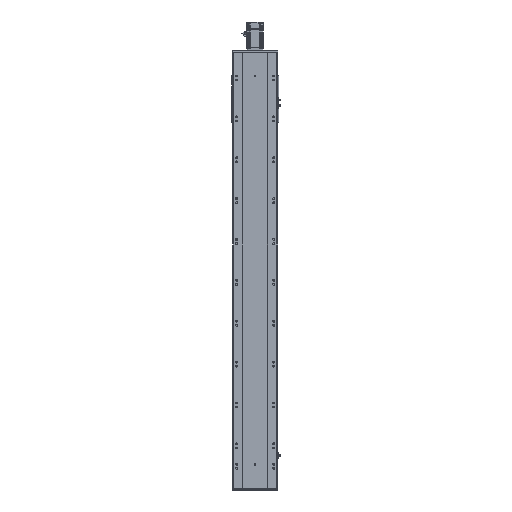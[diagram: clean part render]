
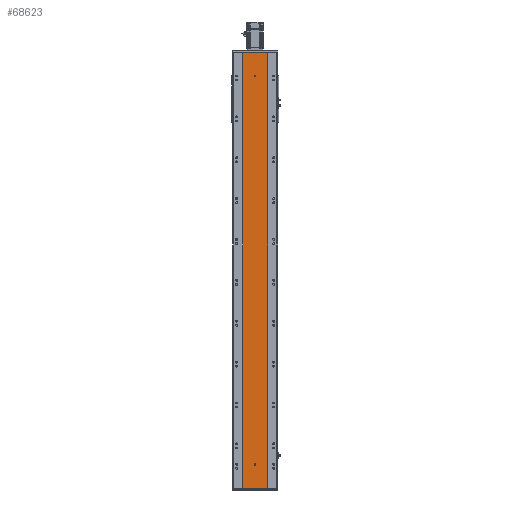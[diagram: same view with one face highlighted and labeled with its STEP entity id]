
A CAD part, front view. The second image highlights one B-rep face of the part: STEP entity #68623.
In plain terms, the highlighted planar face has unit normal (0, -1, 0).
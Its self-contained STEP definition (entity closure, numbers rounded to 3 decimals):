
#151 = CARTESIAN_POINT ( 'NONE',  ( 60., 0., 0. ) ) ;
#196 = DIRECTION ( 'NONE',  ( 0., 0., -1. ) ) ;
#1177 = ORIENTED_EDGE ( 'NONE', *, *, #66688, .T. ) ;
#2038 = ORIENTED_EDGE ( 'NONE', *, *, #28944, .F. ) ;
#3447 = CIRCLE ( 'NONE', #6340, 4. ) ;
#5328 = CARTESIAN_POINT ( 'NONE',  ( 4., 0., 119.5 ) ) ;
#5422 = CARTESIAN_POINT ( 'NONE',  ( -60., 0., 0. ) ) ;
#6007 = VERTEX_POINT ( 'NONE', #20006 ) ;
#6340 = AXIS2_PLACEMENT_3D ( 'NONE', #40088, #40354, #58918 ) ;
#6597 = EDGE_CURVE ( 'NONE', #69523, #29168, #29006, .T. ) ;
#8158 = CARTESIAN_POINT ( 'NONE',  ( -60., 0., 2132. ) ) ;
#8830 = ORIENTED_EDGE ( 'NONE', *, *, #63914, .F. ) ;
#9156 = VECTOR ( 'NONE', #20589, 1000. ) ;
#10245 = CARTESIAN_POINT ( 'NONE',  ( 0., 0., 2022. ) ) ;
#12049 = CARTESIAN_POINT ( 'NONE',  ( 0., 0., 119.5 ) ) ;
#14658 = VECTOR ( 'NONE', #75427, 1000. ) ;
#15878 = ORIENTED_EDGE ( 'NONE', *, *, #70265, .F. ) ;
#16163 = CARTESIAN_POINT ( 'NONE',  ( 0., 0., 116.5 ) ) ;
#16296 = CARTESIAN_POINT ( 'NONE',  ( 60., 0., 2132. ) ) ;
#16817 = LINE ( 'NONE', #5422, #35694 ) ;
#17688 = CARTESIAN_POINT ( 'NONE',  ( -4., 0., 116.5 ) ) ;
#17880 = DIRECTION ( 'NONE',  ( 1., 0., 0. ) ) ;
#18945 = VERTEX_POINT ( 'NONE', #41398 ) ;
#19575 = LINE ( 'NONE', #75661, #20577 ) ;
#19617 = ORIENTED_EDGE ( 'NONE', *, *, #6597, .F. ) ;
#19967 = CARTESIAN_POINT ( 'NONE',  ( 0., 0., 2014. ) ) ;
#20006 = CARTESIAN_POINT ( 'NONE',  ( -60., 0., 0. ) ) ;
#20577 = VECTOR ( 'NONE', #20949, 1000. ) ;
#20589 = DIRECTION ( 'NONE',  ( 0., 0., -1. ) ) ;
#20949 = DIRECTION ( 'NONE',  ( 0., 0., -1. ) ) ;
#23416 = DIRECTION ( 'NONE',  ( 1., 0., 0. ) ) ;
#24185 = DIRECTION ( 'NONE',  ( 0., -1., 0. ) ) ;
#24939 = VERTEX_POINT ( 'NONE', #5328 ) ;
#25606 = EDGE_CURVE ( 'NONE', #78070, #41511, #59777, .T. ) ;
#26130 = DIRECTION ( 'NONE',  ( 0., 0., 1. ) ) ;
#28549 = VECTOR ( 'NONE', #41695, 1000. ) ;
#28569 = DIRECTION ( 'NONE',  ( 0., 0., -1. ) ) ;
#28944 = EDGE_CURVE ( 'NONE', #18945, #69523, #37508, .T. ) ;
#28947 = EDGE_LOOP ( 'NONE', ( #1177, #66849, #53612, #73225 ) ) ;
#29006 = CIRCLE ( 'NONE', #49739, 4. ) ;
#29168 = VERTEX_POINT ( 'NONE', #54763 ) ;
#29924 = EDGE_LOOP ( 'NONE', ( #59755, #36405 ) ) ;
#30672 = DIRECTION ( 'NONE',  ( 0., -1., 0. ) ) ;
#32368 = LINE ( 'NONE', #17688, #28549 ) ;
#32430 = VERTEX_POINT ( 'NONE', #16296 ) ;
#32746 = DIRECTION ( 'NONE',  ( 0., 1., 0. ) ) ;
#33159 = CARTESIAN_POINT ( 'NONE',  ( -60., 0., 2132. ) ) ;
#34463 = CARTESIAN_POINT ( 'NONE',  ( 0., 0., 116.5 ) ) ;
#34849 = EDGE_CURVE ( 'NONE', #32430, #45244, #74397, .T. ) ;
#35447 = VERTEX_POINT ( 'NONE', #33159 ) ;
#35694 = VECTOR ( 'NONE', #17880, 1000. ) ;
#36405 = ORIENTED_EDGE ( 'NONE', *, *, #25606, .F. ) ;
#36449 = FACE_OUTER_BOUND ( 'NONE', #28947, .T. ) ;
#37508 = CIRCLE ( 'NONE', #62698, 4. ) ;
#40088 = CARTESIAN_POINT ( 'NONE',  ( 0., 0., 2018. ) ) ;
#40354 = DIRECTION ( 'NONE',  ( 0., -1., 0. ) ) ;
#40422 = DIRECTION ( 'NONE',  ( 0., -1., 0. ) ) ;
#41398 = CARTESIAN_POINT ( 'NONE',  ( -4., 0., 116.5 ) ) ;
#41511 = VERTEX_POINT ( 'NONE', #19967 ) ;
#41695 = DIRECTION ( 'NONE',  ( 0., 0., -1. ) ) ;
#41878 = DIRECTION ( 'NONE',  ( 0., 0., -1. ) ) ;
#43088 = FACE_BOUND ( 'NONE', #29924, .T. ) ;
#43302 = ORIENTED_EDGE ( 'NONE', *, *, #59828, .F. ) ;
#45244 = VERTEX_POINT ( 'NONE', #151 ) ;
#48228 = EDGE_CURVE ( 'NONE', #41511, #78070, #3447, .T. ) ;
#48449 = CIRCLE ( 'NONE', #50945, 4. ) ;
#49467 = CARTESIAN_POINT ( 'NONE',  ( 0., 0., 112.5 ) ) ;
#49739 = AXIS2_PLACEMENT_3D ( 'NONE', #16163, #40422, #28569 ) ;
#50945 = AXIS2_PLACEMENT_3D ( 'NONE', #12049, #24185, #41878 ) ;
#53122 = EDGE_LOOP ( 'NONE', ( #43302, #19617, #2038, #8830, #15878 ) ) ;
#53275 = CARTESIAN_POINT ( 'NONE',  ( -60., 0., 2132. ) ) ;
#53612 = ORIENTED_EDGE ( 'NONE', *, *, #53861, .F. ) ;
#53861 = EDGE_CURVE ( 'NONE', #35447, #32430, #76837, .T. ) ;
#54763 = CARTESIAN_POINT ( 'NONE',  ( 4., 0., 116.5 ) ) ;
#55338 = AXIS2_PLACEMENT_3D ( 'NONE', #73216, #30672, #196 ) ;
#56320 = FACE_BOUND ( 'NONE', #53122, .T. ) ;
#57048 = PLANE ( 'NONE',  #66596 ) ;
#57286 = CARTESIAN_POINT ( 'NONE',  ( 60., 0., 2132. ) ) ;
#57337 = EDGE_CURVE ( 'NONE', #35447, #6007, #19575, .T. ) ;
#57685 = CARTESIAN_POINT ( 'NONE',  ( 4., 0., 116.5 ) ) ;
#58918 = DIRECTION ( 'NONE',  ( 0., 0., -1. ) ) ;
#59115 = LINE ( 'NONE', #57685, #14658 ) ;
#59755 = ORIENTED_EDGE ( 'NONE', *, *, #48228, .F. ) ;
#59777 = CIRCLE ( 'NONE', #55338, 4. ) ;
#59828 = EDGE_CURVE ( 'NONE', #29168, #24939, #59115, .T. ) ;
#61844 = CARTESIAN_POINT ( 'NONE',  ( -4., 0., 119.5 ) ) ;
#62698 = AXIS2_PLACEMENT_3D ( 'NONE', #34463, #69885, #63850 ) ;
#63850 = DIRECTION ( 'NONE',  ( 0., 0., -1. ) ) ;
#63914 = EDGE_CURVE ( 'NONE', #77874, #18945, #32368, .T. ) ;
#66596 = AXIS2_PLACEMENT_3D ( 'NONE', #8158, #32746, #26130 ) ;
#66688 = EDGE_CURVE ( 'NONE', #6007, #45244, #16817, .T. ) ;
#66849 = ORIENTED_EDGE ( 'NONE', *, *, #34849, .F. ) ;
#68623 = ADVANCED_FACE ( 'NONE', ( #43088, #56320, #36449 ), #57048, .F. ) ;
#69523 = VERTEX_POINT ( 'NONE', #49467 ) ;
#69885 = DIRECTION ( 'NONE',  ( 0., -1., 0. ) ) ;
#70265 = EDGE_CURVE ( 'NONE', #24939, #77874, #48449, .T. ) ;
#73003 = VECTOR ( 'NONE', #23416, 1000. ) ;
#73216 = CARTESIAN_POINT ( 'NONE',  ( 0., 0., 2018. ) ) ;
#73225 = ORIENTED_EDGE ( 'NONE', *, *, #57337, .T. ) ;
#74397 = LINE ( 'NONE', #57286, #9156 ) ;
#75427 = DIRECTION ( 'NONE',  ( 0., 0., 1. ) ) ;
#75661 = CARTESIAN_POINT ( 'NONE',  ( -60., 0., 2132. ) ) ;
#76837 = LINE ( 'NONE', #53275, #73003 ) ;
#77874 = VERTEX_POINT ( 'NONE', #61844 ) ;
#78070 = VERTEX_POINT ( 'NONE', #10245 ) ;
